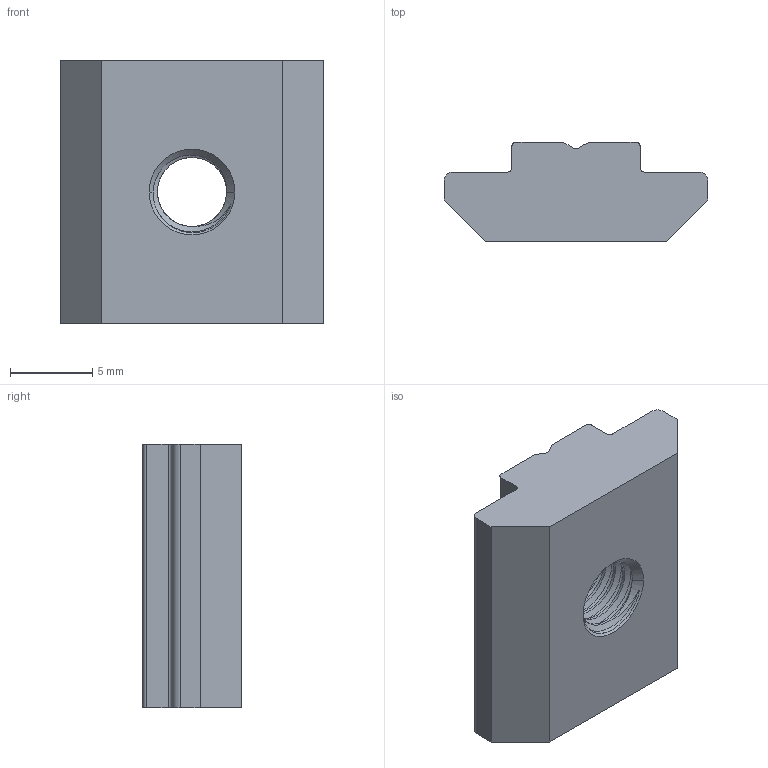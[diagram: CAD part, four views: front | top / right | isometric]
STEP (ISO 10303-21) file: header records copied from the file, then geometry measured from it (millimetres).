
FILE_DESCRIPTION (( 'STEP AP203' ), '1' );
FILE_NAME ('2111.008.002.STEP', '2023-05-24T03:24:23', ( '' ), ( '' ), 'SwSTEP 2.0', 'SolidWorks 2022', '' );
FILE_SCHEMA (( 'CONFIG_CONTROL_DESIGN' ));
Length unit declared in the file: millimetre
Products named in the file (1): 2111.008.002
Bounding box: 16 x 6 x 16 mm (x, y, z)
Volume: 1092.8 mm3; surface area: 884.7 mm2
Topology: 1 solids, 1 shells, 47 faces, 138 edges, 92 vertices
Faces by surface type: cylinder 21, plane 17, cone 5, bspline 4
Entity records: 5008 total; most frequent: CARTESIAN_POINT 3805, ORIENTED_EDGE 276, DIRECTION 195, EDGE_CURVE 138, VERTEX_POINT 92, VECTOR 65, AXIS2_PLACEMENT_3D 65, LINE 65
